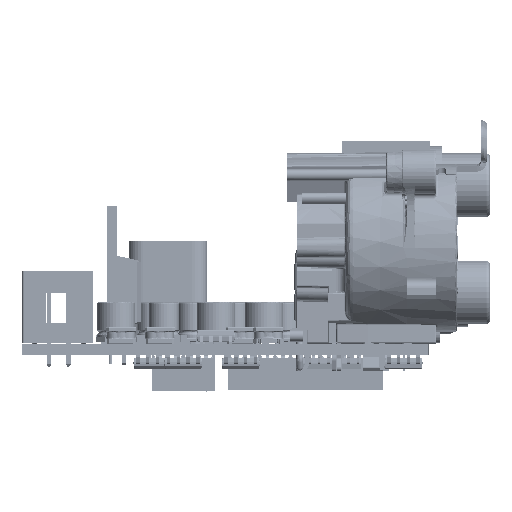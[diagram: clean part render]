
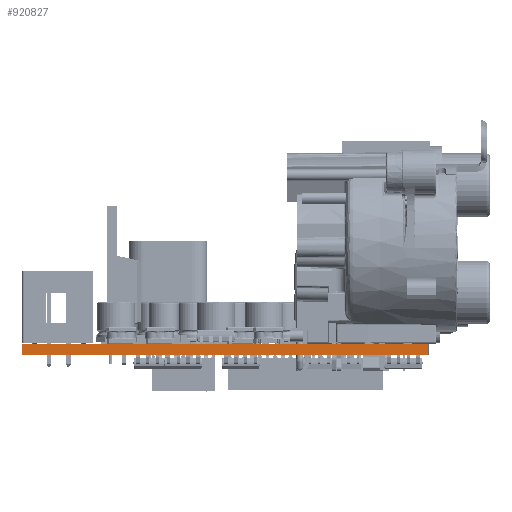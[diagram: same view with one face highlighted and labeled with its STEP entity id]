
A CAD part, left-side view. The second image highlights one B-rep face of the part: STEP entity #920827.
In plain terms, the highlighted planar face has unit normal (-1, 0, 0).
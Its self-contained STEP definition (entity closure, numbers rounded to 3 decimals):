
#10711 = VECTOR ( 'NONE', #653985, 1000. ) ;
#29961 = VECTOR ( 'NONE', #423826, 1000. ) ;
#42425 = LINE ( 'NONE', #658981, #10711 ) ;
#68753 = EDGE_LOOP ( 'NONE', ( #69586, #709552, #574950, #102171 ) ) ;
#69586 = ORIENTED_EDGE ( 'NONE', *, *, #387469, .T. ) ;
#71042 = LINE ( 'NONE', #521045, #362193 ) ;
#102171 = ORIENTED_EDGE ( 'NONE', *, *, #898059, .F. ) ;
#248295 = DIRECTION ( 'NONE',  ( 0., 0., 1. ) ) ;
#263257 = CARTESIAN_POINT ( 'NONE',  ( -0.05, 0., -1.506 ) ) ;
#304777 = CARTESIAN_POINT ( 'NONE',  ( -0.05, 0., 0. ) ) ;
#330984 = EDGE_CURVE ( 'NONE', #650963, #539819, #740089, .T. ) ;
#343046 = CARTESIAN_POINT ( 'NONE',  ( -0.05, 0., -1.506 ) ) ;
#362193 = VECTOR ( 'NONE', #667704, 1000. ) ;
#387469 = EDGE_CURVE ( 'NONE', #637867, #650963, #71042, .T. ) ;
#407914 = EDGE_CURVE ( 'NONE', #603568, #539819, #42425, .T. ) ;
#423826 = DIRECTION ( 'NONE',  ( 0., 1., 0. ) ) ;
#424807 = DIRECTION ( 'NONE',  ( -1., 0., 0. ) ) ;
#451007 = CARTESIAN_POINT ( 'NONE',  ( -0.05, 53., -1.506 ) ) ;
#480751 = PLANE ( 'NONE',  #854563 ) ;
#517643 = CARTESIAN_POINT ( 'NONE',  ( -0.05, 0., -1.506 ) ) ;
#521045 = CARTESIAN_POINT ( 'NONE',  ( -0.05, 0., -1.506 ) ) ;
#539819 = VERTEX_POINT ( 'NONE', #889227 ) ;
#574950 = ORIENTED_EDGE ( 'NONE', *, *, #407914, .F. ) ;
#578500 = DIRECTION ( 'NONE',  ( 0., 1., 0. ) ) ;
#603568 = VERTEX_POINT ( 'NONE', #451007 ) ;
#637867 = VERTEX_POINT ( 'NONE', #517643 ) ;
#650963 = VERTEX_POINT ( 'NONE', #304777 ) ;
#653985 = DIRECTION ( 'NONE',  ( 0., 0., 1. ) ) ;
#658981 = CARTESIAN_POINT ( 'NONE',  ( -0.05, 53., -1.506 ) ) ;
#662602 = VECTOR ( 'NONE', #578500, 1000. ) ;
#667704 = DIRECTION ( 'NONE',  ( 0., 0., 1. ) ) ;
#709552 = ORIENTED_EDGE ( 'NONE', *, *, #330984, .T. ) ;
#740089 = LINE ( 'NONE', #876571, #662602 ) ;
#789006 = FACE_OUTER_BOUND ( 'NONE', #68753, .T. ) ;
#843766 = LINE ( 'NONE', #343046, #29961 ) ;
#854563 = AXIS2_PLACEMENT_3D ( 'NONE', #263257, #424807, #248295 ) ;
#876571 = CARTESIAN_POINT ( 'NONE',  ( -0.05, 0., 0. ) ) ;
#889227 = CARTESIAN_POINT ( 'NONE',  ( -0.05, 53., 0. ) ) ;
#898059 = EDGE_CURVE ( 'NONE', #637867, #603568, #843766, .T. ) ;
#920827 = ADVANCED_FACE ( 'NONE', ( #789006 ), #480751, .T. ) ;
